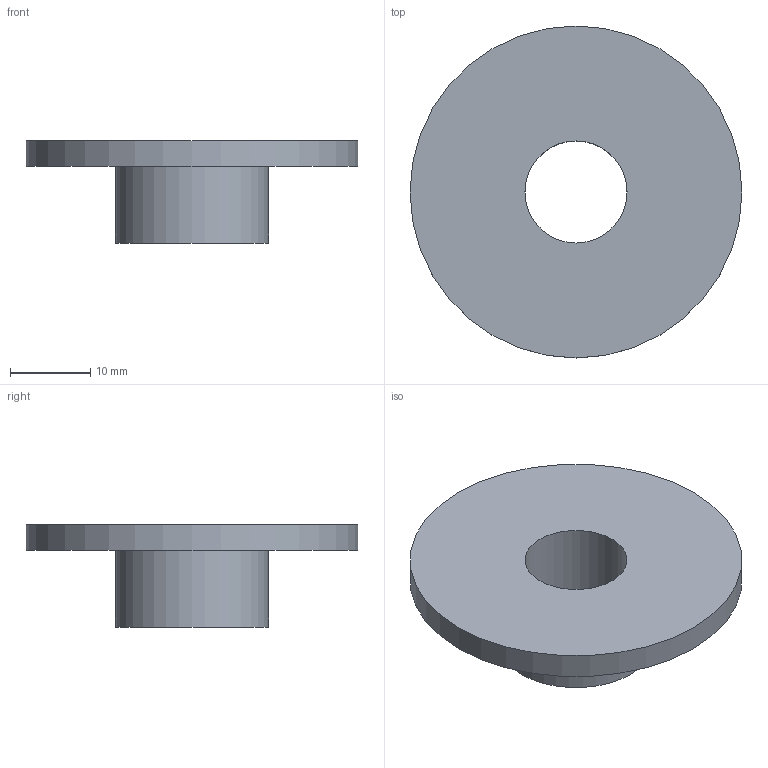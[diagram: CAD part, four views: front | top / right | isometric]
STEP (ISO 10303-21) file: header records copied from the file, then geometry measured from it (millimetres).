
FILE_DESCRIPTION((''),'2;1');
FILE_NAME('C:\REVIT SHARED FILES\STP\HG\HG-50.stp','2013-09-06T13:03:52',('rramoutar'),(''),'Autodesk Inventor 2012','Autodesk Inventor 2012','');
FILE_SCHEMA(('AUTOMOTIVE_DESIGN { 1 0 10303 214 1 1 1 1 }'));
Length unit declared in the file: inch
Products named in the file (1): HG-50
Bounding box: 41.27 x 41.27 x 12.7 mm (x, y, z)
Volume: 5354.3 mm3; surface area: 3911.1 mm2
Topology: 1 solids, 1 shells, 6 faces, 9 edges, 6 vertices
Faces by surface type: plane 3, cylinder 3
Full cylindrical faces by diameter (mm): 12.7 x1, 19.05 x1, 41.275 x1
Entity records: 156 total; most frequent: DIRECTION 26, CARTESIAN_POINT 19, AXIS2_PLACEMENT_3D 13, ORIENTED_EDGE 12, EDGE_LOOP 12, VERTEX_POINT 6, CIRCLE 6, EDGE_CURVE 6
